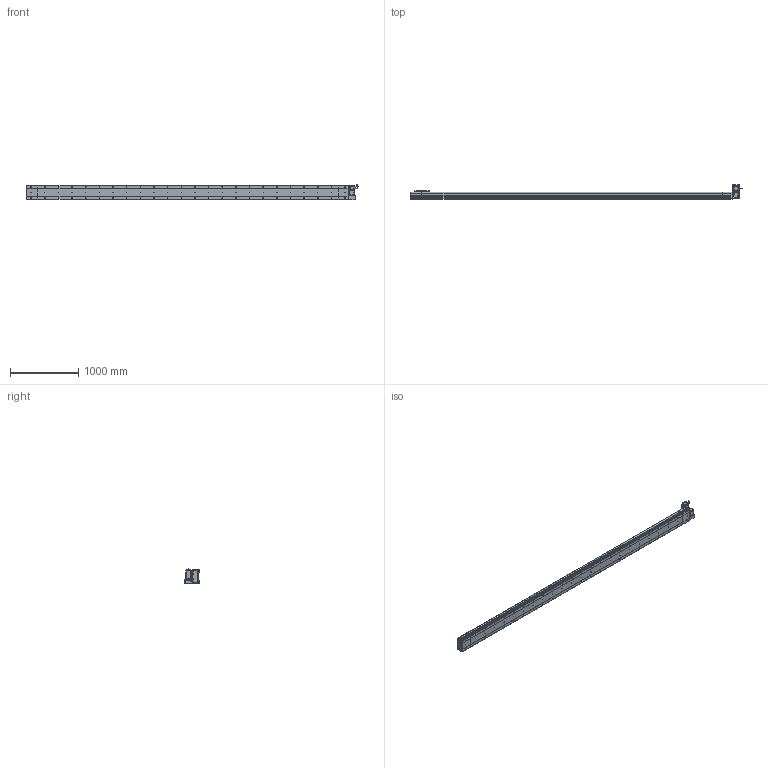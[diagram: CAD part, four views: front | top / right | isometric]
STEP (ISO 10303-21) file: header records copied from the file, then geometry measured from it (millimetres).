
FILE_DESCRIPTION (( 'STEP AP214' ), '1' );
FILE_NAME ('D20 CBH RT S4400.STEP', '2010-06-30T11:34:57', ( 'Conseil Régional Haute-Normandie' ), ( 'Conseil Régional Haute-Normandie' ), 'SwSTEP 2.0', 'SolidWorks 2010', '' );
FILE_SCHEMA (( 'AUTOMOTIVE_DESIGN' ));
Length unit declared in the file: millimetre
Products named in the file (31): Plaque de Bout Tail D20_Default; Couvercle_Default; Plaque De Serrage D20_Default; Corp Tail D20_Default; Tail D20_Default; Glissiere_Default; Couvercle S4400_Default; Corp S4400_Default; Corp D20 S4400_Default; Chariot D20_Default; Support Chariot D20_Default; Rondelle Cache D20 RT_Default; vis M5 L47_Default; Cache Support Moteur RT_Default; ecrou_Default; Plaque De Serrage D20 RT_Default; Plaque de Bout Head D20 RT_Default; Support moteur RT_Default; avant 90BLDC125A-640; Moteur motionking 90BLDC125A-640; corps 90BLDC125A-640; codeur 90BLDC125-640; Conecteur2_Default; D20 CBH RT S4400; Head RT_Default; Couvercle RT_Default; Corp Tail D20 RT_Default; vis M5 L30_Default; Conecteur_Default; vis M5 L15_Default
Assembly tree (68 placements, depth 4):
  D20 CBH RT S4400
    Tail D20_Default
      Couvercle_Default
      vis M5 L15_Default  x6
      Plaque De Serrage D20_Default
      Plaque de Bout Tail D20_Default
      Corp Tail D20_Default
    Corp D20 S4400_Default
      Couvercle S4400_Default
      Corp S4400_Default
    Head RT_Default
      Support moteur RT_Default
      Corp Tail D20 RT_Default
      Rondelle Cache D20 RT_Default  x3
      ecrou_Default  x4
      vis M5 L15_Default  x14
      vis M5 L30_Default  x4
      vis M5 L47_Default  x4
      Couvercle RT_Default
      Moteur motionking 90BLDC125A-640
        Conecteur2_Default
        codeur 90BLDC125-640
        corps 90BLDC125A-640
        avant 90BLDC125A-640
        Conecteur_Default
      Plaque de Bout Head D20 RT_Default
      Cache Support Moteur RT_Default
      Plaque De Serrage D20 RT_Default
    Chariot D20_Default
      Support Chariot D20_Default
      Glissiere_Default
      vis M5 L15_Default  x8
      Chariot D20_Default
Bounding box: 4864.45 x 206.5 x 229.7 mm (x, y, z)
Volume: 32086594.5 mm3; surface area: 6096820.1 mm2
Topology: 105 solids, 105 shells, 3925 faces, 9714 edges, 6310 vertices
Faces by surface type: plane 2164, bspline 806, cylinder 784, torus 95, cone 72, sphere 4
Entity records: 162302 total; most frequent: CARTESIAN_POINT 82781, ORIENTED_EDGE 15696, DIRECTION 12190, EDGE_CURVE 7848, VERTEX_POINT 5194, VECTOR 5008, LINE 5008, AXIS2_PLACEMENT_3D 3591
